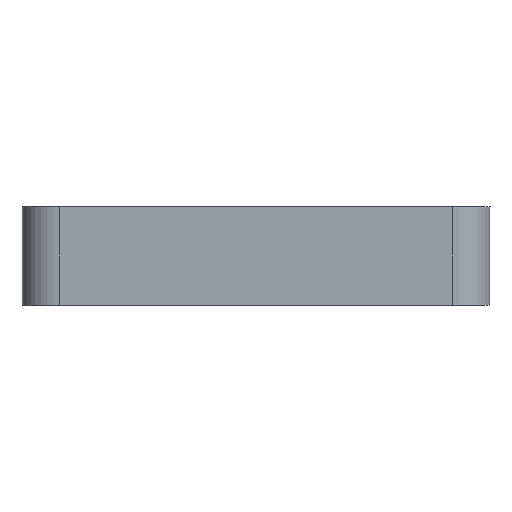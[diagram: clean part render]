
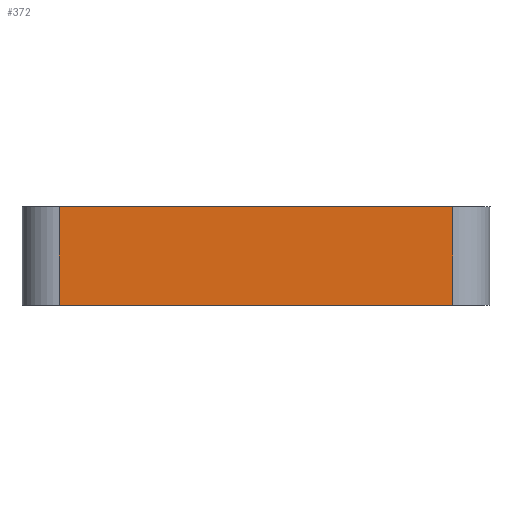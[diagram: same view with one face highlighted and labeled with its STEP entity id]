
A CAD part, front view. The second image highlights one B-rep face of the part: STEP entity #372.
In plain terms, the highlighted planar face has unit normal (0, -1, 0).
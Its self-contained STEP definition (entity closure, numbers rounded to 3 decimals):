
#233=PLANE('',#3226);
#372=ADVANCED_FACE('',(#592),#233,.T.);
#592=FACE_OUTER_BOUND('',#748,.T.);
#748=EDGE_LOOP('',(#1757,#1758,#1759,#1760));
#1017=LINE('',#4787,#1262);
#1018=LINE('',#4791,#1263);
#1033=LINE('',#4843,#1278);
#1034=LINE('',#4844,#1279);
#1262=VECTOR('',#3853,1.);
#1263=VECTOR('',#3858,1.);
#1278=VECTOR('',#3927,1.);
#1279=VECTOR('',#3928,1.);
#1757=ORIENTED_EDGE('',*,*,#2748,.T.);
#1758=ORIENTED_EDGE('',*,*,#2775,.F.);
#1759=ORIENTED_EDGE('',*,*,#2750,.F.);
#1760=ORIENTED_EDGE('',*,*,#2776,.T.);
#2389=VERTEX_POINT('',#4786);
#2390=VERTEX_POINT('',#4788);
#2391=VERTEX_POINT('',#4792);
#2392=VERTEX_POINT('',#4793);
#2748=EDGE_CURVE('',#2390,#2389,#1017,.T.);
#2750=EDGE_CURVE('',#2391,#2392,#1018,.T.);
#2775=EDGE_CURVE('',#2392,#2389,#1033,.T.);
#2776=EDGE_CURVE('',#2391,#2390,#1034,.T.);
#3226=AXIS2_PLACEMENT_3D('',#4845,#3929,#3930);
#3853=DIRECTION('',(0.,0.,-1.));
#3858=DIRECTION('',(0.,0.,-1.));
#3927=DIRECTION('',(-1.,0.,0.));
#3928=DIRECTION('',(-1.,0.,0.));
#3929=DIRECTION('',(0.,-1.,0.));
#3930=DIRECTION('',(0.,0.,-1.));
#4786=CARTESIAN_POINT('',(179.915,165.666,16.53));
#4787=CARTESIAN_POINT('',(179.915,165.666,27.03));
#4788=CARTESIAN_POINT('',(179.915,165.666,27.03));
#4791=CARTESIAN_POINT('',(221.915,165.666,27.03));
#4792=CARTESIAN_POINT('',(221.915,165.666,27.03));
#4793=CARTESIAN_POINT('',(221.915,165.666,16.53));
#4843=CARTESIAN_POINT('',(225.915,165.666,16.53));
#4844=CARTESIAN_POINT('',(221.915,165.666,27.03));
#4845=CARTESIAN_POINT('',(225.915,165.666,18.93));
